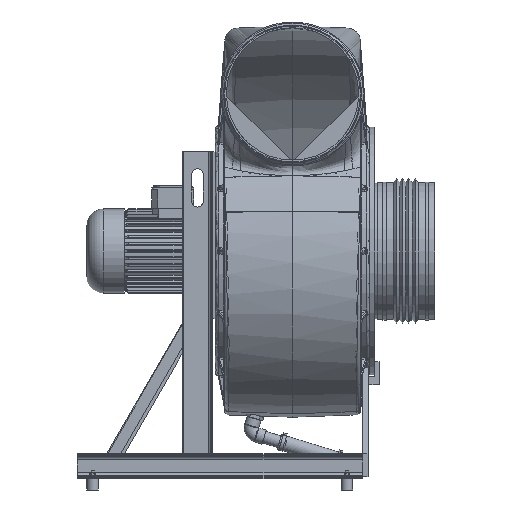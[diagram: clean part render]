
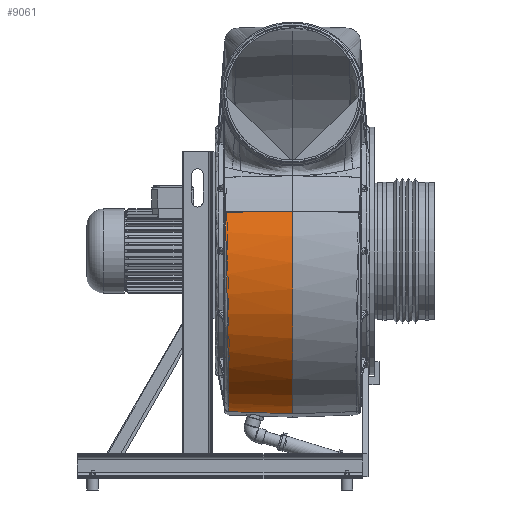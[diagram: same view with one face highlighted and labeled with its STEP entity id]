
A CAD part, left-side view. The second image highlights one B-rep face of the part: STEP entity #9061.
In plain terms, the highlighted face is a revolution surface.
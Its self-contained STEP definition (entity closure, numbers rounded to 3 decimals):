
#9061 = ADVANCED_FACE( '', ( #18415 ), #18416, .T. );
#18415 = FACE_OUTER_BOUND( '', #78118, .T. );
#18416 = SURFACE_OF_REVOLUTION( '', #78119, #78120 );
#78118 = EDGE_LOOP( '', ( #108689, #108690, #108691, #108692 ) );
#78119 = B_SPLINE_CURVE_WITH_KNOTS( '', 1, ( #108693, #108694, #108695 ), .UNSPECIFIED., .F., .F., ( 2, 1, 2 ), ( 0., 1., 1.01 ), .UNSPECIFIED. );
#78120 = AXIS1_PLACEMENT( '', #108696, #108697 );
#108689 = ORIENTED_EDGE( '', *, *, #115194, .F. );
#108690 = ORIENTED_EDGE( '', *, *, #110286, .F. );
#108691 = ORIENTED_EDGE( '', *, *, #109745, .T. );
#108692 = ORIENTED_EDGE( '', *, *, #116093, .F. );
#108693 = CARTESIAN_POINT( '', ( 0., -228.838, 318.624 ) );
#108694 = CARTESIAN_POINT( '', ( -177.5, -225.382, 313.478 ) );
#108695 = CARTESIAN_POINT( '', ( -179.275, -225.348, 313.427 ) );
#108696 = CARTESIAN_POINT( '', ( -88.75, -31.745, -31.745 ) );
#108697 = DIRECTION( '', ( -1., 0., 0. ) );
#109745 = EDGE_CURVE( '', #117994, #117992, #117995, .T. );
#110286 = EDGE_CURVE( '', #117994, #118912, #118913, .T. );
#115194 = EDGE_CURVE( '', #118912, #126078, #126079, .F. );
#116093 = EDGE_CURVE( '', #126078, #117992, #127128, .F. );
#117992 = VERTEX_POINT( '', #130432 );
#117994 = VERTEX_POINT( '', #130437 );
#117995 = CIRCLE( '', #130438, 402. );
#118912 = VERTEX_POINT( '', #132562 );
#118913 = B_SPLINE_CURVE_WITH_KNOTS( '', 1, ( #132563, #132564 ), .UNSPECIFIED., .F., .F., ( 2, 2 ), ( 0., 0.937 ), .UNSPECIFIED. );
#126078 = VERTEX_POINT( '', #154417 );
#126079 = B_SPLINE_CURVE_WITH_KNOTS( '', 3, ( #154418, #154419, #154420, #154421, #154422, #154423, #154424, #154425, #154426, #154427, #154428, #154429, #154430, #154431, #154432, #154433, #154434, #154435, #154436, #154437, #154438, #154439, #154440, #154441, #154442, #154443, #154444, #154445, #154446, #154447, #154448, #154449, #154450, #154451 ), .UNSPECIFIED., .F., .F., ( 4, 2, 2, 2, 2, 2, 2, 2, 2, 2, 2, 2, 2, 2, 2, 2, 4 ), ( 0., 0.016, 0.081, 0.147, 0.212, 0.278, 0.344, 0.409, 0.475, 0.541, 0.606, 0.672, 0.737, 0.803, 0.869, 0.934, 1. ), .UNSPECIFIED. );
#127128 = B_SPLINE_CURVE_WITH_KNOTS( '', 3, ( #157634, #157635, #157636, #157637 ), .UNSPECIFIED., .F., .F., ( 4, 4 ), ( 0., 0.989 ), .UNSPECIFIED. );
#130432 = CARTESIAN_POINT( '', ( 0., 104.563, 346.441 ) );
#130437 = CARTESIAN_POINT( '', ( 0., -425.729, 48.135 ) );
#130438 = AXIS2_PLACEMENT_3D( '', #159833, #159834, #159835 );
#132562 = CARTESIAN_POINT( '', ( -166.362, -419.962, 47.433 ) );
#132563 = CARTESIAN_POINT( '', ( 0., -425.729, 48.135 ) );
#132564 = CARTESIAN_POINT( '', ( -166.362, -419.962, 47.433 ) );
#154417 = CARTESIAN_POINT( '', ( -175.553, 102.351, 340.742 ) );
#154418 = CARTESIAN_POINT( '', ( -175.553, 102.35, 340.743 ) );
#154419 = CARTESIAN_POINT( '', ( -175.482, 99.024, 341.942 ) );
#154420 = CARTESIAN_POINT( '', ( -175.41, 95.682, 343.098 ) );
#154421 = CARTESIAN_POINT( '', ( -175.037, 78.224, 348.873 ) );
#154422 = CARTESIAN_POINT( '', ( -174.735, 63.858, 352.744 ) );
#154423 = CARTESIAN_POINT( '', ( -174.136, 34.782, 358.847 ) );
#154424 = CARTESIAN_POINT( '', ( -173.838, 20.071, 361.08 ) );
#154425 = CARTESIAN_POINT( '', ( -173.248, -9.509, 363.879 ) );
#154426 = CARTESIAN_POINT( '', ( -172.956, -24.378, 364.445 ) );
#154427 = CARTESIAN_POINT( '', ( -172.38, -54.088, 363.903 ) );
#154428 = CARTESIAN_POINT( '', ( -172.096, -68.928, 362.795 ) );
#154429 = CARTESIAN_POINT( '', ( -171.539, -98.39, 358.919 ) );
#154430 = CARTESIAN_POINT( '', ( -171.267, -113.013, 356.15 ) );
#154431 = CARTESIAN_POINT( '', ( -170.735, -141.856, 348.988 ) );
#154432 = CARTESIAN_POINT( '', ( -170.476, -156.076, 344.594 ) );
#154433 = CARTESIAN_POINT( '', ( -169.973, -183.933, 334.235 ) );
#154434 = CARTESIAN_POINT( '', ( -169.73, -197.57, 328.271 ) );
#154435 = CARTESIAN_POINT( '', ( -169.263, -224.089, 314.847 ) );
#154436 = CARTESIAN_POINT( '', ( -169.039, -236.97, 307.388 ) );
#154437 = CARTESIAN_POINT( '', ( -168.612, -261.814, 291.068 ) );
#154438 = CARTESIAN_POINT( '', ( -168.41, -273.777, 282.208 ) );
#154439 = CARTESIAN_POINT( '', ( -168.028, -296.63, 263.199 ) );
#154440 = CARTESIAN_POINT( '', ( -167.849, -307.522, 253.051 ) );
#154441 = CARTESIAN_POINT( '', ( -167.518, -328.096, 231.593 ) );
#154442 = CARTESIAN_POINT( '', ( -167.366, -337.778, 220.284 ) );
#154443 = CARTESIAN_POINT( '', ( -167.091, -355.811, 196.649 ) );
#154444 = CARTESIAN_POINT( '', ( -166.968, -364.161, 184.323 ) );
#154445 = CARTESIAN_POINT( '', ( -166.754, -379.423, 158.81 ) );
#154446 = CARTESIAN_POINT( '', ( -166.663, -386.336, 145.623 ) );
#154447 = CARTESIAN_POINT( '', ( -166.515, -398.634, 118.556 ) );
#154448 = CARTESIAN_POINT( '', ( -166.458, -404.021, 104.676 ) );
#154449 = CARTESIAN_POINT( '', ( -166.382, -413.199, 76.397 ) );
#154450 = CARTESIAN_POINT( '', ( -166.362, -416.991, 61.999 ) );
#154451 = CARTESIAN_POINT( '', ( -166.362, -419.962, 47.433 ) );
#157634 = CARTESIAN_POINT( '', ( 0., 104.563, 346.441 ) );
#157635 = CARTESIAN_POINT( '', ( -58.518, 103.826, 344.541 ) );
#157636 = CARTESIAN_POINT( '', ( -117.036, 103.09, 342.641 ) );
#157637 = CARTESIAN_POINT( '', ( -175.553, 102.353, 340.741 ) );
#159833 = CARTESIAN_POINT( '', ( 0., -31.745, -31.745 ) );
#159834 = DIRECTION( '', ( -1., 0., 0. ) );
#159835 = DIRECTION( '', ( 0., -1., 0. ) );
